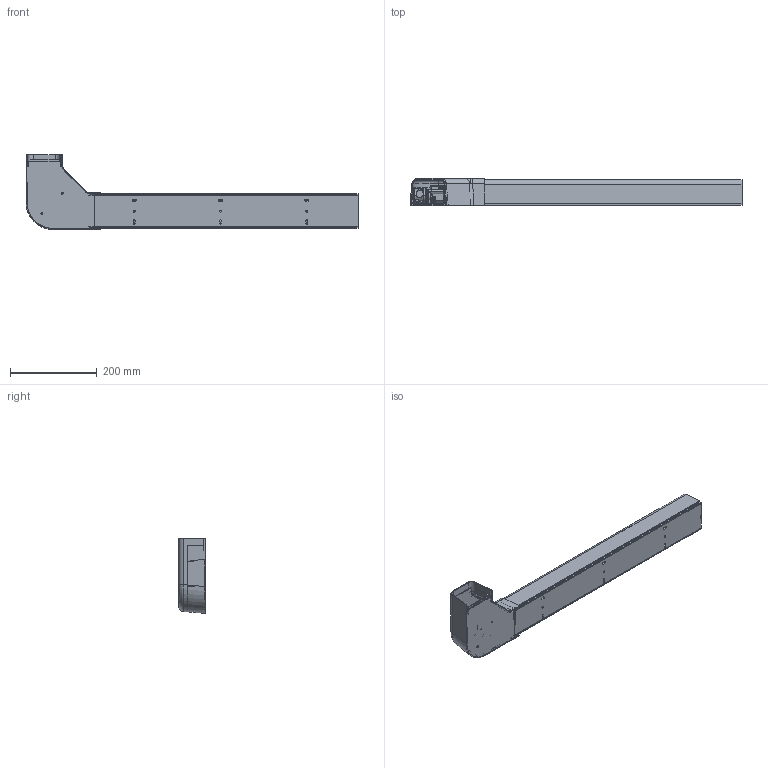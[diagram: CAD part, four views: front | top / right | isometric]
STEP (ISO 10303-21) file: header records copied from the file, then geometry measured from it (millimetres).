
FILE_DESCRIPTION (( 'STEP AP214' ), '1' );
FILE_NAME ('116335.STEP', '2022-08-09T08:09:40', ( '' ), ( '' ), 'SwSTEP 2.0', 'SolidWorks 2019', '' );
FILE_SCHEMA (( 'AUTOMOTIVE_DESIGN' ));
Length unit declared in the file: millimetre
Products named in the file (8): 116335-2; 116335; 116335-3; 116335-5; 116335-1; 116335-6; 116335-4; 116335-7_Plein
Assembly tree (7 placements, depth 2):
  116335
    116335-1
    116335-2
    116335-3
    116335-4
    116335-5
    116335-6
    116335-7_Plein
Bounding box: 765.1 x 62 x 172.5 mm (x, y, z)
Volume: 786405.8 mm3; surface area: 737691.2 mm2
Topology: 26 solids, 26 shells, 939 faces, 2481 edges, 1614 vertices
Faces by surface type: plane 494, cylinder 293, bspline 119, torus 23, sphere 6, cone 4
Entity records: 35400 total; most frequent: CARTESIAN_POINT 11677, ORIENTED_EDGE 4940, DIRECTION 4331, EDGE_CURVE 2470, VERTEX_POINT 1614, LINE 1531, VECTOR 1531, AXIS2_PLACEMENT_3D 1400
